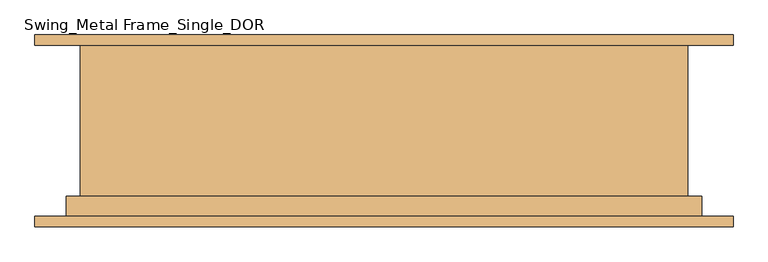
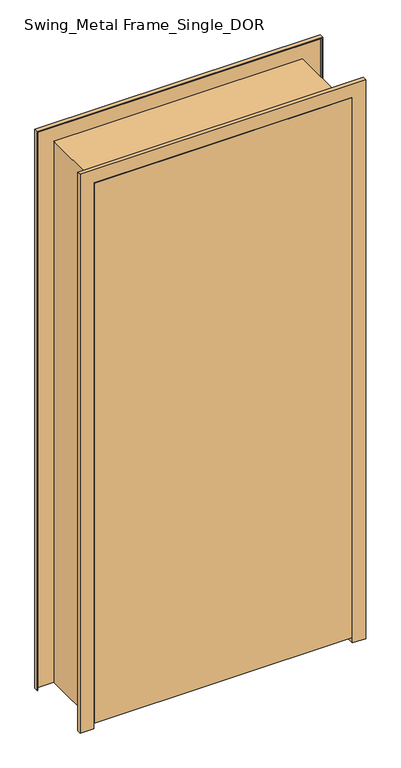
"""IFC4 building model written with IfcOpenShell, lengths in millimetres: door geometry, Swing_Metal Frame_Single_DOR : 2040h x 920 (2110x1020 STUD)."""

from ifc_helpers import new_model, si_unit, frame, origin, place, context, project, spatial, polyline, outline, extrude, faceted_brep, source, transform, mapped, element, save


def swing_metal_frame_single_dor_70c6aacb(model_context):
    return source(origin(), model_context, "Body", "SolidModel", [
        extrude(outline(polyline([(460.0, -140.0), (-460.0, -140.0), (-460.0, -100.0), (460.0, -100.0), (460.0, -140.0)])), frame((0.0, 0.0, 20.0), z_axis=(0.0, 0.0, 1.0), x_axis=(1.0, 0.0, 0.0)), (0.0, 0.0, 1.0), 2040.0),
        faceted_brep([(-510.0, 140.0, 0.0), (-442.0, 140.0, 0.0), (-442.0, -98.0, 0.0), (-462.0, -98.0, 0.0), (-462.0, -140.0, 0.0), (-510.0, -140.0, 0.0), (-510.0, -125.0, 0.0), (-508.0, -125.0, 0.0), (-508.0, -138.0, 0.0), (-464.0, -138.0, 0.0), (-464.0, -96.0, 0.0), (-444.0, -96.0, 0.0), (-444.0, 138.0, 0.0), (-508.0, 138.0, 0.0), (-508.0, 125.0, 0.0), (-510.0, 125.0, 0.0), (-510.0, 125.0, 2110.0), (-510.0, 140.0, 2110.0), (-508.0, 125.0, 2108.0), (508.0, 125.0, 2108.0), (508.0, 125.0, 0.0), (510.0, 125.0, 0.0), (510.0, 125.0, 2110.0), (-508.0, 138.0, 2108.0), (-444.0, 138.0, 2044.0), (444.0, 138.0, 2044.0), (444.0, 138.0, 0.0), (508.0, 138.0, 0.0), (508.0, 138.0, 2108.0), (-444.0, -96.0, 2044.0), (-464.0, -96.0, 2064.0), (464.0, -96.0, 2064.0), (464.0, -96.0, 0.0), (444.0, -96.0, 0.0), (444.0, -96.0, 2044.0), (-464.0, -138.0, 2064.0), (-508.0, -138.0, 2108.0), (508.0, -138.0, 2108.0), (508.0, -138.0, 0.0), (464.0, -138.0, 0.0), (464.0, -138.0, 2064.0), (-508.0, -125.0, 2108.0), (-510.0, -125.0, 2110.0), (510.0, -125.0, 2110.0), (510.0, -125.0, 0.0), (508.0, -125.0, 0.0), (508.0, -125.0, 2108.0), (-510.0, -140.0, 2110.0), (-462.0, -140.0, 2062.0), (462.0, -140.0, 2062.0), (462.0, -140.0, 0.0), (510.0, -140.0, 0.0), (510.0, -140.0, 2110.0), (-462.0, -98.0, 2062.0), (-442.0, -98.0, 2042.0), (442.0, -98.0, 2042.0), (442.0, -98.0, 0.0), (462.0, -98.0, 0.0), (462.0, -98.0, 2062.0), (-442.0, 140.0, 2042.0), (510.0, 140.0, 2110.0), (510.0, 140.0, 0.0), (442.0, 140.0, 0.0), (442.0, 140.0, 2042.0)], [[[0, 1, 2, 3, 4, 5, 6, 7, 8, 9, 10, 11, 12, 13, 14, 15]], [[15, 16, 17, 0]], [[14, 18, 19, 20, 21, 22, 16, 15]], [[13, 23, 18, 14]], [[12, 24, 25, 26, 27, 28, 23, 13]], [[11, 29, 24, 12]], [[10, 30, 31, 32, 33, 34, 29, 11]], [[9, 35, 30, 10]], [[8, 36, 37, 38, 39, 40, 35, 9]], [[7, 41, 36, 8]], [[6, 42, 43, 44, 45, 46, 41, 7]], [[5, 47, 42, 6]], [[4, 48, 49, 50, 51, 52, 47, 5]], [[3, 53, 48, 4]], [[2, 54, 55, 56, 57, 58, 53, 3]], [[1, 59, 54, 2]], [[0, 17, 60, 61, 62, 63, 59, 1]], [[22, 21, 61, 60]], [[61, 21, 20, 27, 26, 33, 32, 39, 38, 45, 44, 51, 50, 57, 56, 62]], [[28, 27, 20, 19]], [[34, 33, 26, 25]], [[40, 39, 32, 31]], [[46, 45, 38, 37]], [[52, 51, 44, 43]], [[58, 57, 50, 49]], [[63, 62, 56, 55]], [[16, 22, 60, 17]], [[23, 28, 19, 18]], [[29, 34, 25, 24]], [[35, 40, 31, 30]], [[41, 46, 37, 36]], [[47, 52, 43, 42]], [[53, 58, 49, 48]], [[59, 63, 55, 54]]]),
    ])


if __name__ == "__main__":
    model = new_model("IFC4")
    model_context = context("Model", 3, world=origin())
    ifc_project = project(units=[si_unit("LENGTHUNIT", "METRE", prefix="MILLI")], contexts=[model_context])
    site = spatial("IfcSite", under=ifc_project)
    building = spatial("IfcBuilding", under=site)
    placement = place(None, origin())
    swing_metal_frame_single_dor_shape = swing_metal_frame_single_dor_70c6aacb(model_context)
    element("IfcDoor", 1, ObjectType="Swing_Metal Frame_Single_DOR : 2040h x 920 (2110x1020 STUD)", at=placement, inside=building, context=model_context, shape_type="MappedRepresentation", body=[
        mapped(swing_metal_frame_single_dor_shape, transform((0.0, 0.0, 0.0), x_axis=(1.0, 0.0, 0.0), y_axis=(0.0, 1.0, 0.0), z_axis=(0.0, 0.0, 1.0))),
    ])
    save(model, "model.ifc")
